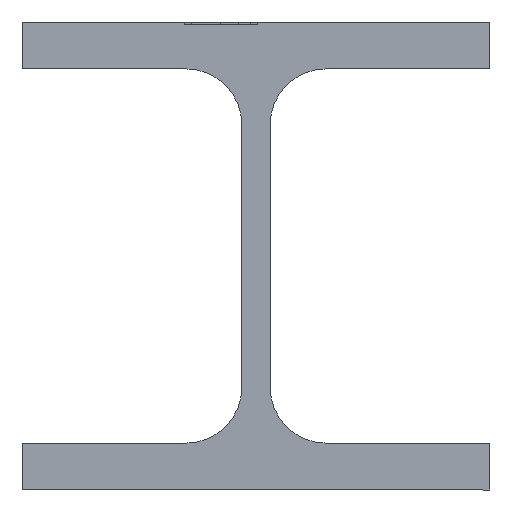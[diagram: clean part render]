
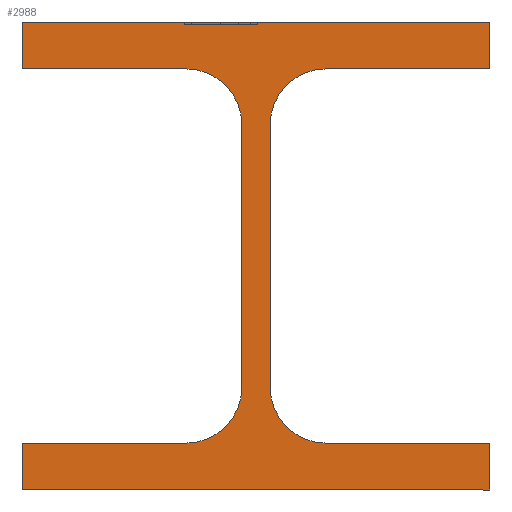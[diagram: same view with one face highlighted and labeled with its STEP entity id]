
A CAD part, left-side view. The second image highlights one B-rep face of the part: STEP entity #2988.
In plain terms, the highlighted planar face has unit normal (-1, 0, 0).
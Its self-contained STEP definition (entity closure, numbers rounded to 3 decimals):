
#16 = AXIS2_PLACEMENT_3D ( 'NONE', #4433, #4067, #1934 ) ;
#30 = VECTOR ( 'NONE', #4973, 1000. ) ;
#150 = ORIENTED_EDGE ( 'NONE', *, *, #2926, .T. ) ;
#201 = DIRECTION ( 'NONE',  ( 0., 0., -1. ) ) ;
#206 = LINE ( 'NONE', #1866, #381 ) ;
#223 = DIRECTION ( 'NONE',  ( 0., 1., 0. ) ) ;
#299 = CARTESIAN_POINT ( 'NONE',  ( -55., 50., 2300. ) ) ;
#319 = LINE ( 'NONE', #828, #3143 ) ;
#322 = DIRECTION ( 'NONE',  ( 0., 0., 1. ) ) ;
#347 = CARTESIAN_POINT ( 'NONE',  ( -55., 3., 2368. ) ) ;
#362 = CARTESIAN_POINT ( 'NONE',  ( -55., 15., 2368. ) ) ;
#372 = VERTEX_POINT ( 'NONE', #3977 ) ;
#381 = VECTOR ( 'NONE', #5347, 1000. ) ;
#405 = DIRECTION ( 'NONE',  ( 1., 0., 0. ) ) ;
#443 = ORIENTED_EDGE ( 'NONE', *, *, #5529, .T. ) ;
#505 = CARTESIAN_POINT ( 'NONE',  ( -55., -15., 2300. ) ) ;
#582 = EDGE_CURVE ( 'NONE', #5096, #4262, #2432, .T. ) ;
#653 = VECTOR ( 'NONE', #4628, 1000. ) ;
#680 = LINE ( 'NONE', #4100, #30 ) ;
#696 = ORIENTED_EDGE ( 'NONE', *, *, #969, .T. ) ;
#773 = VERTEX_POINT ( 'NONE', #4617 ) ;
#792 = EDGE_CURVE ( 'NONE', #1053, #1858, #319, .T. ) ;
#794 = EDGE_CURVE ( 'NONE', #2276, #1918, #4645, .T. ) ;
#819 = CARTESIAN_POINT ( 'NONE',  ( -55., -50., 2290. ) ) ;
#821 = ORIENTED_EDGE ( 'NONE', *, *, #4360, .T. ) ;
#828 = CARTESIAN_POINT ( 'NONE',  ( -55., -50., 2290. ) ) ;
#969 = EDGE_CURVE ( 'NONE', #4990, #5096, #2327, .T. ) ;
#1032 = EDGE_CURVE ( 'NONE', #2050, #5116, #2878, .T. ) ;
#1053 = VERTEX_POINT ( 'NONE', #819 ) ;
#1074 = CARTESIAN_POINT ( 'NONE',  ( -55., 15., 2300. ) ) ;
#1151 = CARTESIAN_POINT ( 'NONE',  ( -55., 50., 2380. ) ) ;
#1270 = VECTOR ( 'NONE', #223, 1000. ) ;
#1349 = CARTESIAN_POINT ( 'NONE',  ( -55., 50., 2390. ) ) ;
#1366 = CARTESIAN_POINT ( 'NONE',  ( -55., -15., 2380. ) ) ;
#1376 = EDGE_CURVE ( 'NONE', #372, #4243, #2790, .T. ) ;
#1440 = ORIENTED_EDGE ( 'NONE', *, *, #582, .T. ) ;
#1517 = PLANE ( 'NONE',  #5130 ) ;
#1535 = DIRECTION ( 'NONE',  ( 0., 0., -1. ) ) ;
#1552 = EDGE_CURVE ( 'NONE', #1918, #5325, #4558, .T. ) ;
#1580 = CARTESIAN_POINT ( 'NONE',  ( -55., 50., 2380. ) ) ;
#1583 = CARTESIAN_POINT ( 'NONE',  ( -55., -50., 2390. ) ) ;
#1595 = CARTESIAN_POINT ( 'NONE',  ( -55., -3., 2312. ) ) ;
#1596 = ORIENTED_EDGE ( 'NONE', *, *, #1376, .T. ) ;
#1639 = CARTESIAN_POINT ( 'NONE',  ( -55., -50., 2300. ) ) ;
#1659 = LINE ( 'NONE', #1595, #653 ) ;
#1821 = DIRECTION ( 'NONE',  ( 1., 0., 0. ) ) ;
#1824 = ORIENTED_EDGE ( 'NONE', *, *, #5555, .T. ) ;
#1858 = VERTEX_POINT ( 'NONE', #2535 ) ;
#1866 = CARTESIAN_POINT ( 'NONE',  ( -55., -15., 2380. ) ) ;
#1892 = CARTESIAN_POINT ( 'NONE',  ( -55., 50., 2290. ) ) ;
#1908 = FACE_OUTER_BOUND ( 'NONE', #3154, .T. ) ;
#1918 = VERTEX_POINT ( 'NONE', #1349 ) ;
#1934 = DIRECTION ( 'NONE',  ( 0., 0., 1. ) ) ;
#1998 = LINE ( 'NONE', #1580, #5056 ) ;
#2050 = VERTEX_POINT ( 'NONE', #3952 ) ;
#2085 = LINE ( 'NONE', #3800, #3506 ) ;
#2169 = CIRCLE ( 'NONE', #16, 12. ) ;
#2276 = VERTEX_POINT ( 'NONE', #4659 ) ;
#2296 = ORIENTED_EDGE ( 'NONE', *, *, #3819, .T. ) ;
#2327 = LINE ( 'NONE', #1074, #1270 ) ;
#2432 = LINE ( 'NONE', #299, #4220 ) ;
#2473 = VERTEX_POINT ( 'NONE', #505 ) ;
#2535 = CARTESIAN_POINT ( 'NONE',  ( -55., -50., 2300. ) ) ;
#2559 = CARTESIAN_POINT ( 'NONE',  ( -55., 50., 2300. ) ) ;
#2651 = EDGE_CURVE ( 'NONE', #5385, #2276, #2085, .T. ) ;
#2655 = CARTESIAN_POINT ( 'NONE',  ( -55., 3., 2312. ) ) ;
#2790 = CIRCLE ( 'NONE', #3502, 12. ) ;
#2810 = DIRECTION ( 'NONE',  ( 0., 0., 1. ) ) ;
#2841 = ORIENTED_EDGE ( 'NONE', *, *, #792, .T. ) ;
#2848 = CARTESIAN_POINT ( 'NONE',  ( -55., 50., 2390. ) ) ;
#2878 = CIRCLE ( 'NONE', #3327, 12. ) ;
#2926 = EDGE_CURVE ( 'NONE', #2473, #773, #2169, .T. ) ;
#2988 = ADVANCED_FACE ( 'NONE', ( #1908 ), #1517, .T. ) ;
#3117 = EDGE_CURVE ( 'NONE', #4538, #4990, #3508, .T. ) ;
#3143 = VECTOR ( 'NONE', #5064, 1000. ) ;
#3154 = EDGE_LOOP ( 'NONE', ( #821, #4518, #5206, #4378, #443, #3964, #5373, #4021, #696, #1440, #1824, #2841, #2296, #150, #4033, #1596 ) ) ;
#3321 = LINE ( 'NONE', #1639, #4143 ) ;
#3327 = AXIS2_PLACEMENT_3D ( 'NONE', #362, #4179, #3376 ) ;
#3360 = CARTESIAN_POINT ( 'NONE',  ( -55., -15., 2368. ) ) ;
#3376 = DIRECTION ( 'NONE',  ( 0., 0., 1. ) ) ;
#3461 = EDGE_CURVE ( 'NONE', #5116, #4538, #4134, .T. ) ;
#3502 = AXIS2_PLACEMENT_3D ( 'NONE', #3360, #405, #322 ) ;
#3506 = VECTOR ( 'NONE', #5513, 1000. ) ;
#3508 = CIRCLE ( 'NONE', #3608, 12. ) ;
#3608 = AXIS2_PLACEMENT_3D ( 'NONE', #4398, #1821, #4795 ) ;
#3800 = CARTESIAN_POINT ( 'NONE',  ( -55., -50., 2380. ) ) ;
#3819 = EDGE_CURVE ( 'NONE', #1858, #2473, #3321, .T. ) ;
#3867 = VECTOR ( 'NONE', #201, 1000. ) ;
#3952 = CARTESIAN_POINT ( 'NONE',  ( -55., 15., 2380. ) ) ;
#3964 = ORIENTED_EDGE ( 'NONE', *, *, #1032, .T. ) ;
#3977 = CARTESIAN_POINT ( 'NONE',  ( -55., -3., 2368. ) ) ;
#4010 = EDGE_CURVE ( 'NONE', #773, #372, #1659, .T. ) ;
#4021 = ORIENTED_EDGE ( 'NONE', *, *, #3117, .T. ) ;
#4033 = ORIENTED_EDGE ( 'NONE', *, *, #4010, .T. ) ;
#4067 = DIRECTION ( 'NONE',  ( 1., 0., 0. ) ) ;
#4100 = CARTESIAN_POINT ( 'NONE',  ( -55., 50., 2290. ) ) ;
#4101 = DIRECTION ( 'NONE',  ( 0., 1., 0. ) ) ;
#4134 = LINE ( 'NONE', #347, #4138 ) ;
#4138 = VECTOR ( 'NONE', #5520, 1000. ) ;
#4143 = VECTOR ( 'NONE', #4101, 1000. ) ;
#4179 = DIRECTION ( 'NONE',  ( 1., 0., 0. ) ) ;
#4220 = VECTOR ( 'NONE', #1535, 1000. ) ;
#4243 = VERTEX_POINT ( 'NONE', #1366 ) ;
#4262 = VERTEX_POINT ( 'NONE', #1892 ) ;
#4360 = EDGE_CURVE ( 'NONE', #4243, #5385, #206, .T. ) ;
#4378 = ORIENTED_EDGE ( 'NONE', *, *, #1552, .T. ) ;
#4398 = CARTESIAN_POINT ( 'NONE',  ( -55., 15., 2312. ) ) ;
#4433 = CARTESIAN_POINT ( 'NONE',  ( -55., -15., 2312. ) ) ;
#4489 = DIRECTION ( 'NONE',  ( -1., 0., 0. ) ) ;
#4498 = DIRECTION ( 'NONE',  ( 0., -1., 0. ) ) ;
#4518 = ORIENTED_EDGE ( 'NONE', *, *, #2651, .T. ) ;
#4538 = VERTEX_POINT ( 'NONE', #2655 ) ;
#4558 = LINE ( 'NONE', #2848, #3867 ) ;
#4606 = CARTESIAN_POINT ( 'NONE',  ( -55., 3., 2368. ) ) ;
#4617 = CARTESIAN_POINT ( 'NONE',  ( -55., -3., 2312. ) ) ;
#4628 = DIRECTION ( 'NONE',  ( 0., 0., 1. ) ) ;
#4633 = CARTESIAN_POINT ( 'NONE',  ( -55., 15., 2300. ) ) ;
#4645 = LINE ( 'NONE', #1583, #5386 ) ;
#4659 = CARTESIAN_POINT ( 'NONE',  ( -55., -50., 2390. ) ) ;
#4795 = DIRECTION ( 'NONE',  ( 0., 0., 1. ) ) ;
#4911 = CARTESIAN_POINT ( 'NONE',  ( -55., 1025., 2295. ) ) ;
#4973 = DIRECTION ( 'NONE',  ( 0., -1., 0. ) ) ;
#4990 = VERTEX_POINT ( 'NONE', #4633 ) ;
#5056 = VECTOR ( 'NONE', #4498, 1000. ) ;
#5064 = DIRECTION ( 'NONE',  ( 0., 0., 1. ) ) ;
#5096 = VERTEX_POINT ( 'NONE', #2559 ) ;
#5116 = VERTEX_POINT ( 'NONE', #4606 ) ;
#5130 = AXIS2_PLACEMENT_3D ( 'NONE', #4911, #4489, #2810 ) ;
#5206 = ORIENTED_EDGE ( 'NONE', *, *, #794, .T. ) ;
#5207 = CARTESIAN_POINT ( 'NONE',  ( -55., -50., 2380. ) ) ;
#5325 = VERTEX_POINT ( 'NONE', #1151 ) ;
#5347 = DIRECTION ( 'NONE',  ( 0., -1., 0. ) ) ;
#5373 = ORIENTED_EDGE ( 'NONE', *, *, #3461, .T. ) ;
#5385 = VERTEX_POINT ( 'NONE', #5207 ) ;
#5386 = VECTOR ( 'NONE', #5432, 1000. ) ;
#5432 = DIRECTION ( 'NONE',  ( 0., 1., 0. ) ) ;
#5513 = DIRECTION ( 'NONE',  ( 0., 0., 1. ) ) ;
#5520 = DIRECTION ( 'NONE',  ( 0., 0., -1. ) ) ;
#5529 = EDGE_CURVE ( 'NONE', #5325, #2050, #1998, .T. ) ;
#5555 = EDGE_CURVE ( 'NONE', #4262, #1053, #680, .T. ) ;
